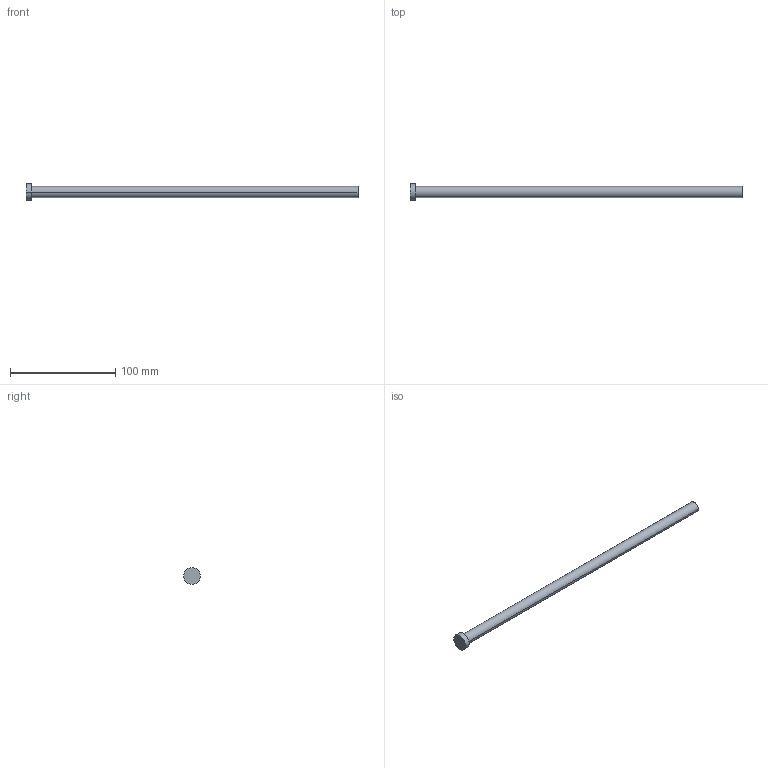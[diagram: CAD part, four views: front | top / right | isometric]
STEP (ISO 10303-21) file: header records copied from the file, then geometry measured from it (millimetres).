
FILE_DESCRIPTION (( 'STEP AP214' ), '1' );
FILE_NAME ('A-10,5x315.STEP', '2020-05-29T16:01:01', ( 'August' ), ( '' ), 'SwSTEP 2.0', 'SolidWorks 2018', '' );
FILE_SCHEMA (( 'AUTOMOTIVE_DESIGN' ));
Length unit declared in the file: millimetre
Products named in the file (1): A-10,5x315
Bounding box: 315 x 16 x 16 mm (x, y, z)
Volume: 27850.1 mm3; surface area: 10872.4 mm2
Topology: 1 solids, 1 shells, 9 faces, 16 edges, 10 vertices
Faces by surface type: cylinder 4, plane 3, torus 2
Entity records: 260 total; most frequent: DIRECTION 48, CARTESIAN_POINT 36, ORIENTED_EDGE 32, AXIS2_PLACEMENT_3D 22, EDGE_CURVE 16, CIRCLE 12, EDGE_LOOP 10, VERTEX_POINT 10
